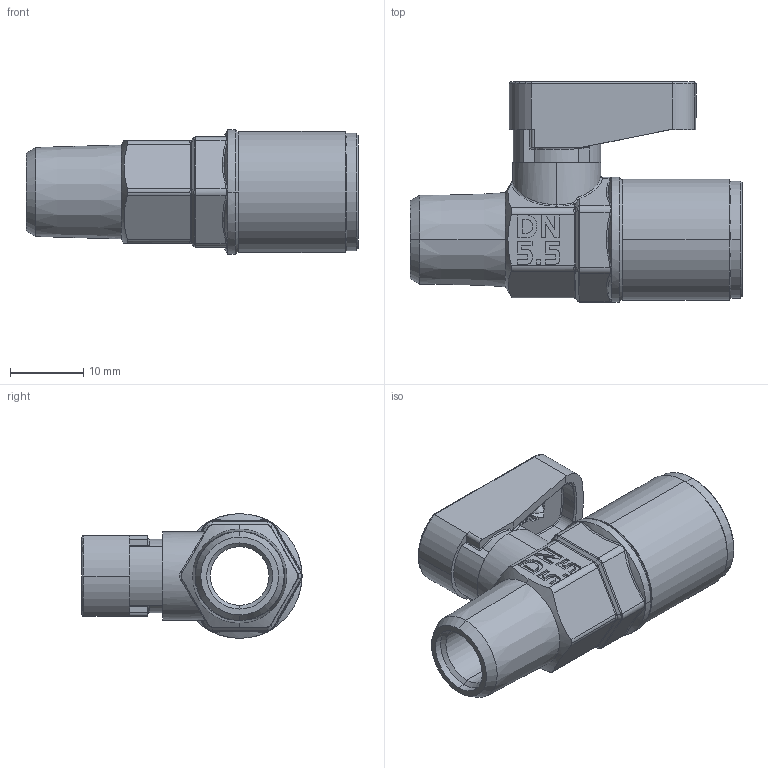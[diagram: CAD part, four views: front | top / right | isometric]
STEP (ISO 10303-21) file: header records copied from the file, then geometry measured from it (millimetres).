
FILE_DESCRIPTION (( 'STEP AP214' ), '1' );
FILE_NAME ('8631000002.STEP', '2016-05-23T15:09:28', ( '' ), ( '' ), 'SwSTEP 2.0', 'SolidWorks 2016', '' );
FILE_SCHEMA (( 'AUTOMOTIVE_DESIGN' ));
Length unit declared in the file: millimetre
Products named in the file (1): 8631000002
Bounding box: 45.25 x 30 x 17 mm (x, y, z)
Surface area: 4687.1 mm2 (no closed solid volume)
Topology: 0 solids, 5 shells, 482 faces, 1315 edges, 848 vertices
Faces by surface type: plane 244, cylinder 113, bspline 71, cone 26, torus 26, sphere 2
Entity records: 21419 total; most frequent: CARTESIAN_POINT 4536, ORIENTED_EDGE 2497, DIRECTION 2232, EDGE_CURVE 1315, VERTEX_POINT 848, LINE 798, VECTOR 798, AXIS2_PLACEMENT_3D 717
